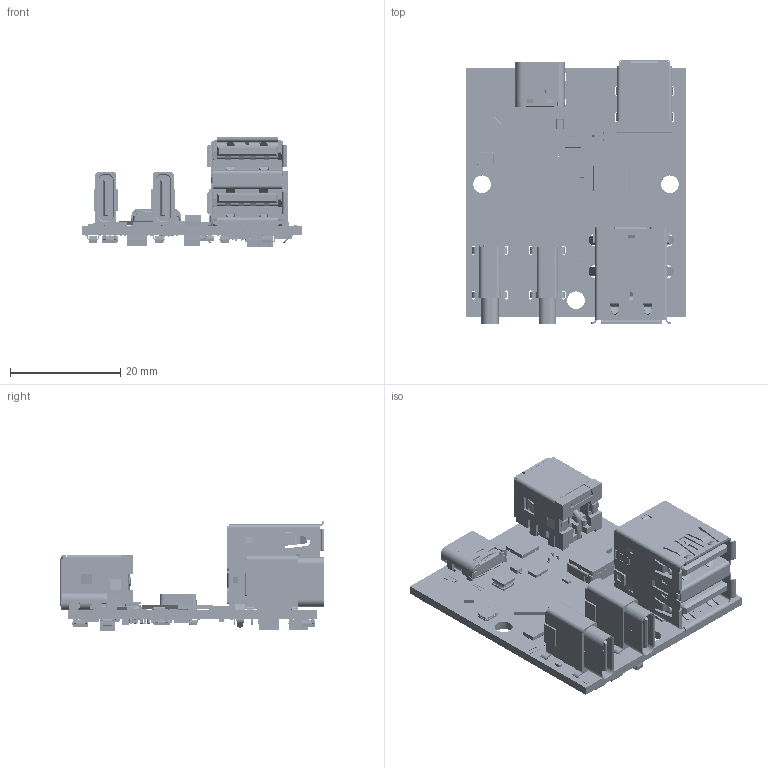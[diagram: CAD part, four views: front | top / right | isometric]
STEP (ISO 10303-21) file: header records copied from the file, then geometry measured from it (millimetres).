
FILE_DESCRIPTION(/* description */ (''),/* implementation_level */ '2;1');
FILE_NAME(/* name */ 'CG-CCJPDAC60_Model3D_JWV1.step',/* time_stamp */ '2024-02-01T12:33:19-05:00',/* author */ (''),/* organization */ (''),/* preprocessor_version */ 'ST-DEVELOPER v20',/* originating_system */ 'Autodesk Translation Framework v12.14.0.127',/* authorisation */ '');
FILE_SCHEMA (('AUTOMOTIVE_DESIGN { 1 0 10303 214 3 1 1 }'));
Products named in the file (381): (Unsaved); BoardCG-817X2CX2AX1C_PD; Open CASCADE STEP translator 7.5 1.1.1; C87BCG-817X2CX2AX1C_PD; C87ACG-817X2CX2AX1C_PD; C86BCG-817X2CX2AX1C_PD; C86ACG-817X2CX2AX1C_PD; U2BCG-817X2CX2AX1C_PD; U2ACG-817X2CX2AX1C_PD; U1BCG-817X2CX2AX1C_PD; U1ACG-817X2CX2AX1C_PD; 6460719248; Body; ThermalPin; PinsArrayLR; PinsArrayTB; R16BCG-817X2CX2AX1C_PD; R16ACG-817X2CX2AX1C_PD; R15BCG-817X2CX2AX1C_PD; R15ACG-817X2CX2AX1C_PD; R14BCG-817X2CX2AX1C_PD; R14ACG-817X2CX2AX1C_PD; R13BCG-817X2CX2AX1C_PD; R13ACG-817X2CX2AX1C_PD; R12BCG-817X2CX2AX1C_PD; R12ACG-817X2CX2AX1C_PD; R11BCG-817X2CX2AX1C_PD; R11ACG-817X2CX2AX1C_PD; R10BCG-817X2CX2AX1C_PD; R10ACG-817X2CX2AX1C_PD; R9BCG-817X2CX2AX1C_PD; R9ACG-817X2CX2AX1C_PD; R8BCG-817X2CX2AX1C_PD; R8ACG-817X2CX2AX1C_PD; R7BCG-817X2CX2AX1C_PD; R7ACG-817X2CX2AX1C_PD; R6BCG-817X2CX2AX1C_PD; R6ACG-817X2CX2AX1C_PD; R5BCG-817X2CX2AX1C_PD; R5ACG-817X2CX2AX1C_PD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
Assembly tree (455 placements, depth 4):
  (Unsaved)
    BoardCG-817X2CX2AX1C_PD
      Open CASCADE STEP translator 7.5 1.1.1
    C87BCG-817X2CX2AX1C_PD
    C87ACG-817X2CX2AX1C_PD
    C86BCG-817X2CX2AX1C_PD
    C86ACG-817X2CX2AX1C_PD
    U2BCG-817X2CX2AX1C_PD
      User Library-SOT23-5-2
    U2ACG-817X2CX2AX1C_PD
      User Library-SOT23-5-2
    U1BCG-817X2CX2AX1C_PD
      6460719248
        Body
        ThermalPin
        PinsArrayLR
        PinsArrayTB
    U1ACG-817X2CX2AX1C_PD
      6460719248
        Body
        ThermalPin
        PinsArrayLR
        PinsArrayTB
    R16BCG-817X2CX2AX1C_PD
    R16ACG-817X2CX2AX1C_PD
    R15BCG-817X2CX2AX1C_PD
    R15ACG-817X2CX2AX1C_PD
    R14BCG-817X2CX2AX1C_PD
    R14ACG-817X2CX2AX1C_PD
    R13BCG-817X2CX2AX1C_PD
    R13ACG-817X2CX2AX1C_PD
    R12BCG-817X2CX2AX1C_PD
    R12ACG-817X2CX2AX1C_PD
    R11BCG-817X2CX2AX1C_PD
    R11ACG-817X2CX2AX1C_PD
    R10BCG-817X2CX2AX1C_PD
    R10ACG-817X2CX2AX1C_PD
    R9BCG-817X2CX2AX1C_PD
    R9ACG-817X2CX2AX1C_PD
    R8BCG-817X2CX2AX1C_PD
    R8ACG-817X2CX2AX1C_PD
    R7BCG-817X2CX2AX1C_PD
    R7ACG-817X2CX2AX1C_PD
    R6BCG-817X2CX2AX1C_PD
    R6ACG-817X2CX2AX1C_PD
    R5BCG-817X2CX2AX1C_PD
    R5ACG-817X2CX2AX1C_PD
    R4BCG-817X2CX2AX1C_PD
    R4ACG-817X2CX2AX1C_PD
    R3BCG-817X2CX2AX1C_PD
    R3ACG-817X2CX2AX1C_PD
    R2BCG-817X2CX2AX1C_PD
    R2ACG-817X2CX2AX1C_PD
    R1BCG-817X2CX2AX1C_PD
    R1ACG-817X2CX2AX1C_PD
    J1BCG-817X2CX2AX1C_PD
      GT-USB-7092A
    J1ACG-817X2CX2AX1C_PD
      GT-USB-7092A
    FB1BCG-817X2CX2AX1C_PD
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Bounding box: 40 x 47.79 x 20.09 mm (x, y, z)
Volume: 7162.1 mm3; surface area: 12694.5 mm2
Topology: 442 solids, 443 shells, 10636 faces, 27275 edges, 17533 vertices
Faces by surface type: plane 7171, cylinder 1995, bspline 1073, sphere 182, torus 145, cone 70
Full cylindrical faces by diameter (mm): 0.1 x1, 0.2 x12, 0.244 x1, 0.25 x1, 0.3 x9, 0.312 x2, 0.55 x2, 0.65 x5, 0.7 x18, 0.8 x2, 1 x4, 1.2 x4, 1.35 x1, 1.7 x1, 1.9 x1, 2 x1, 2.032 x6, 2.3 x4, 2.4 x1, 2.8 x2, 2.85 x2, 3.2 x3
Entity records: 233783 total; most frequent: CARTESIAN_POINT 63721, ORIENTED_EDGE 33605, DIRECTION 31650, EDGE_CURVE 16804, LINE 12808, VECTOR 12808, VERTEX_POINT 10914, AXIS2_PLACEMENT_3D 9421
